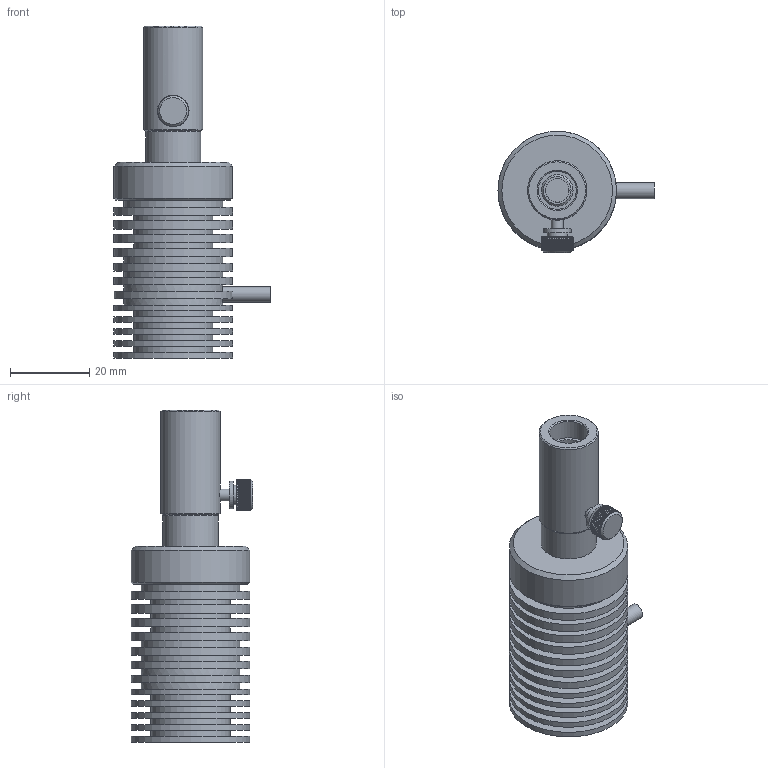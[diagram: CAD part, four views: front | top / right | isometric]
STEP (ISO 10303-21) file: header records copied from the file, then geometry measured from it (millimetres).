
FILE_DESCRIPTION(('STEP AP214'),'1');
FILE_NAME('LED-3WDB.stp','2025-04-04T03:18:41',(' '),(' '),'Spatial InterOp 3D',' ',' ');
FILE_SCHEMA(('AUTOMOTIVE_DESIGN { 1 0 10303 214 1 1 1 1 }'));
Length unit declared in the file: metre
Products named in the file (5): LED-3WDB; Component1; Component2; Component3; Component4
Assembly tree (4 placements, depth 3):
  LED-3WDB
    Component1
    Component2
      Component3
      Component4
Bounding box: 39.5 x 30.76 x 84 mm (x, y, z)
Volume: 32709.9 mm3; surface area: 16988.7 mm2
Topology: 3 solids, 3 shells, 476 faces, 870 edges, 432 vertices
Faces by surface type: plane 261, cylinder 204, cone 10, torus 1
Full cylindrical faces by diameter (mm): 3 x2, 4 x1, 4.2 x1, 5 x1, 5.95 x1, 6 x1, 7 x1, 8 x2, 9.6 x1, 14 x1, 15 x2, 20 x7, 25 x5, 30 x12
Entity records: 19040 total; most frequent: DIRECTION 2185, CARTESIAN_POINT 1835, ORIENTED_EDGE 1622, STYLED_ITEM 1290, PRESENTATION_STYLE_ASSIGNMENT 1290, COLOUR_RGB 1290, AXIS2_PLACEMENT_3D 898, EDGE_CURVE 811
